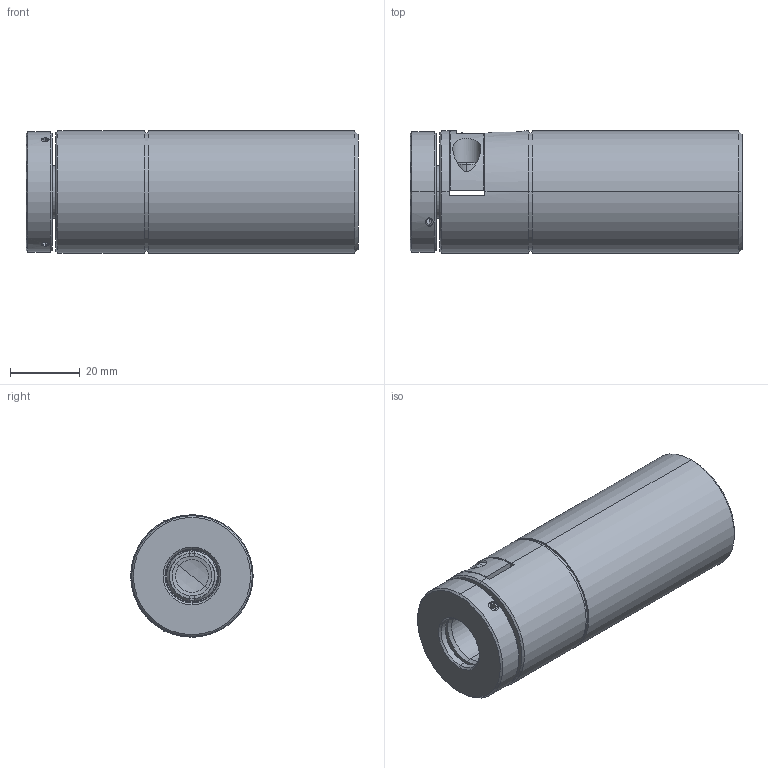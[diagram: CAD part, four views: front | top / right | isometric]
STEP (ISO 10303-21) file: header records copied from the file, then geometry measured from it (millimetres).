
FILE_DESCRIPTION (( 'STEP AP214' ), '1' );
FILE_NAME ('PT-P00614.STEP', '2018-09-19T09:16:28', ( '' ), ( '' ), 'SwSTEP 2.0', 'SolidWorks 2014', '' );
FILE_SCHEMA (( 'AUTOMOTIVE_DESIGN' ));
Length unit declared in the file: millimetre
Products named in the file (1): PT-P00614
Bounding box: 95 x 35 x 35 mm (x, y, z)
Surface area: 19431.7 mm2 (no closed solid volume)
Topology: 0 solids, 17 shells, 191 faces, 577 edges, 398 vertices
Faces by surface type: plane 80, cylinder 66, cone 32, torus 8, bspline 3, sphere 2
Entity records: 9051 total; most frequent: CARTESIAN_POINT 1851, DIRECTION 1084, ORIENTED_EDGE 954, EDGE_CURVE 571, AXIS2_PLACEMENT_3D 420, VERTEX_POINT 398, VECTOR 244, LINE 244
